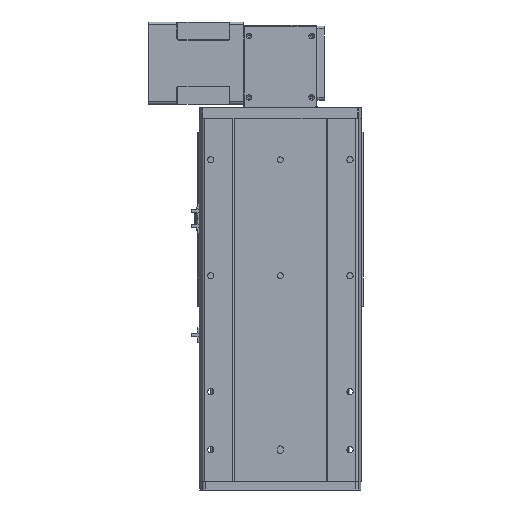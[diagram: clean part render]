
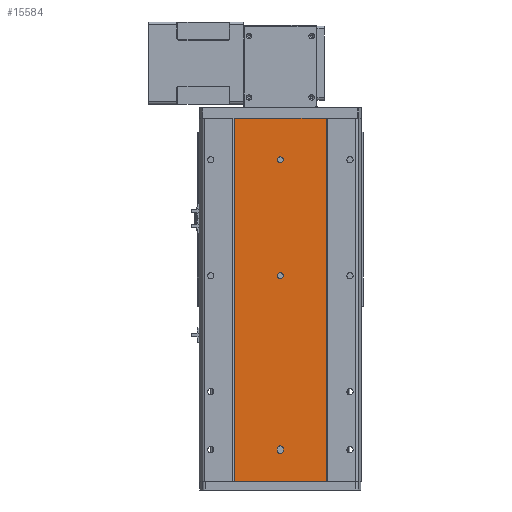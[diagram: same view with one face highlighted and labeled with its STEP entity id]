
A CAD part, front view. The second image highlights one B-rep face of the part: STEP entity #15584.
In plain terms, the highlighted planar face has unit normal (0, -1, 0).
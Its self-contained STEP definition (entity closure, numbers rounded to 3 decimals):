
#485 = CARTESIAN_POINT ( 'NONE',  ( 0., 1.5, -573. ) ) ;
#700 = CARTESIAN_POINT ( 'NONE',  ( 0., 1.5, -266.5 ) ) ;
#879 = FACE_OUTER_BOUND ( 'NONE', #30639, .T. ) ;
#1335 = DIRECTION ( 'NONE',  ( 0., 1., 0. ) ) ;
#1423 = DIRECTION ( 'NONE',  ( 0., 0., -1. ) ) ;
#2266 = DIRECTION ( 'NONE',  ( 1., 0., 0. ) ) ;
#4595 = AXIS2_PLACEMENT_3D ( 'NONE', #17086, #20539, #26842 ) ;
#5209 = EDGE_CURVE ( 'NONE', #33308, #13635, #17812, .T. ) ;
#5722 = CARTESIAN_POINT ( 'NONE',  ( 0., 1.5, -76.5 ) ) ;
#5755 = VERTEX_POINT ( 'NONE', #28177 ) ;
#5845 = CARTESIAN_POINT ( 'NONE',  ( -79., 1.5, 0. ) ) ;
#6512 = ORIENTED_EDGE ( 'NONE', *, *, #30100, .T. ) ;
#6748 = VECTOR ( 'NONE', #1423, 1000. ) ;
#6835 = CARTESIAN_POINT ( 'NONE',  ( -79., 1.5, -627. ) ) ;
#7912 = DIRECTION ( 'NONE',  ( 1., 0., 0. ) ) ;
#8146 = CARTESIAN_POINT ( 'NONE',  ( 0., 1.5, -573. ) ) ;
#8676 = AXIS2_PLACEMENT_3D ( 'NONE', #485, #1335, #15824 ) ;
#8684 = CARTESIAN_POINT ( 'NONE',  ( -5., 1.5, -627. ) ) ;
#8753 = CARTESIAN_POINT ( 'NONE',  ( -79., 1.5, 0. ) ) ;
#8786 = VERTEX_POINT ( 'NONE', #25258 ) ;
#8956 = CIRCLE ( 'NONE', #17875, 5. ) ;
#9595 = VECTOR ( 'NONE', #38729, 1000. ) ;
#9855 = EDGE_CURVE ( 'NONE', #38647, #19650, #14155, .T. ) ;
#10147 = DIRECTION ( 'NONE',  ( 1., 0., 0. ) ) ;
#11269 = DIRECTION ( 'NONE',  ( 0., 1., 0. ) ) ;
#11631 = CARTESIAN_POINT ( 'NONE',  ( 5., 1.5, -627. ) ) ;
#11682 = LINE ( 'NONE', #34620, #27562 ) ;
#11886 = CIRCLE ( 'NONE', #4595, 5. ) ;
#12054 = ORIENTED_EDGE ( 'NONE', *, *, #37401, .T. ) ;
#12189 = ORIENTED_EDGE ( 'NONE', *, *, #28045, .F. ) ;
#13635 = VERTEX_POINT ( 'NONE', #21191 ) ;
#14155 = CIRCLE ( 'NONE', #41268, 5. ) ;
#14166 = ORIENTED_EDGE ( 'NONE', *, *, #22579, .F. ) ;
#14586 = VECTOR ( 'NONE', #10147, 1000. ) ;
#14931 = AXIS2_PLACEMENT_3D ( 'NONE', #40707, #11269, #31004 ) ;
#15002 = DIRECTION ( 'NONE',  ( 1., 0., 0. ) ) ;
#15396 = VERTEX_POINT ( 'NONE', #5845 ) ;
#15450 = LINE ( 'NONE', #11631, #6748 ) ;
#15584 = ADVANCED_FACE ( 'NONE', ( #28098, #879, #36254, #37271 ), #26031, .T. ) ;
#15824 = DIRECTION ( 'NONE',  ( 1., 0., 0. ) ) ;
#17086 = CARTESIAN_POINT ( 'NONE',  ( 0., 1.5, -71.5 ) ) ;
#17137 = CARTESIAN_POINT ( 'NONE',  ( -5., 1.5, -573. ) ) ;
#17444 = ORIENTED_EDGE ( 'NONE', *, *, #41277, .T. ) ;
#17604 = CARTESIAN_POINT ( 'NONE',  ( 0., 1.5, -578. ) ) ;
#17812 = LINE ( 'NONE', #8684, #9595 ) ;
#17839 = CARTESIAN_POINT ( 'NONE',  ( 0., 1.5, -66.5 ) ) ;
#17875 = AXIS2_PLACEMENT_3D ( 'NONE', #36330, #26751, #32311 ) ;
#17899 = VERTEX_POINT ( 'NONE', #20148 ) ;
#18078 = EDGE_CURVE ( 'NONE', #21758, #25214, #24757, .T. ) ;
#18579 = EDGE_CURVE ( 'NONE', #17899, #20491, #15450, .T. ) ;
#19076 = VERTEX_POINT ( 'NONE', #17604 ) ;
#19275 = CARTESIAN_POINT ( 'NONE',  ( -79., 1.5, -627. ) ) ;
#19503 = LINE ( 'NONE', #19275, #38948 ) ;
#19573 = DIRECTION ( 'NONE',  ( 1., 0., 0. ) ) ;
#19650 = VERTEX_POINT ( 'NONE', #17839 ) ;
#20148 = CARTESIAN_POINT ( 'NONE',  ( 5., 1.5, -570. ) ) ;
#20491 = VERTEX_POINT ( 'NONE', #33491 ) ;
#20539 = DIRECTION ( 'NONE',  ( 0., 1., 0. ) ) ;
#20745 = CIRCLE ( 'NONE', #8676, 5. ) ;
#21191 = CARTESIAN_POINT ( 'NONE',  ( -5., 1.5, -570. ) ) ;
#21197 = DIRECTION ( 'NONE',  ( 0., 1., 0. ) ) ;
#21516 = DIRECTION ( 'NONE',  ( 0., 0., 1. ) ) ;
#21758 = VERTEX_POINT ( 'NONE', #700 ) ;
#22573 = ORIENTED_EDGE ( 'NONE', *, *, #9855, .T. ) ;
#22579 = EDGE_CURVE ( 'NONE', #15396, #5755, #24019, .T. ) ;
#22990 = ORIENTED_EDGE ( 'NONE', *, *, #37468, .T. ) ;
#24019 = LINE ( 'NONE', #8753, #35770 ) ;
#24223 = EDGE_CURVE ( 'NONE', #13635, #17899, #40960, .T. ) ;
#24364 = EDGE_LOOP ( 'NONE', ( #12054, #29077 ) ) ;
#24381 = CARTESIAN_POINT ( 'NONE',  ( 0., 1.5, -570. ) ) ;
#24726 = DIRECTION ( 'NONE',  ( 1., 0., 0. ) ) ;
#24757 = CIRCLE ( 'NONE', #14931, 5. ) ;
#24968 = AXIS2_PLACEMENT_3D ( 'NONE', #6835, #36300, #19573 ) ;
#25214 = VERTEX_POINT ( 'NONE', #36290 ) ;
#25258 = CARTESIAN_POINT ( 'NONE',  ( 79., 1.5, -627. ) ) ;
#26031 = PLANE ( 'NONE',  #24968 ) ;
#26751 = DIRECTION ( 'NONE',  ( 0., 1., 0. ) ) ;
#26842 = DIRECTION ( 'NONE',  ( 1., 0., 0. ) ) ;
#26899 = CARTESIAN_POINT ( 'NONE',  ( -79., 1.5, -627. ) ) ;
#27562 = VECTOR ( 'NONE', #21516, 1000. ) ;
#27750 = EDGE_CURVE ( 'NONE', #19076, #33308, #41454, .T. ) ;
#27818 = DIRECTION ( 'NONE',  ( 0., 1., 0. ) ) ;
#28045 = EDGE_CURVE ( 'NONE', #29454, #15396, #19503, .T. ) ;
#28098 = FACE_BOUND ( 'NONE', #33832, .T. ) ;
#28142 = DIRECTION ( 'NONE',  ( 0., 1., 0. ) ) ;
#28177 = CARTESIAN_POINT ( 'NONE',  ( 79., 1.5, 0. ) ) ;
#28283 = CARTESIAN_POINT ( 'NONE',  ( 0., 1.5, -71.5 ) ) ;
#29077 = ORIENTED_EDGE ( 'NONE', *, *, #18078, .T. ) ;
#29454 = VERTEX_POINT ( 'NONE', #32041 ) ;
#29576 = DIRECTION ( 'NONE',  ( 0., 0., 1. ) ) ;
#30029 = ORIENTED_EDGE ( 'NONE', *, *, #27750, .T. ) ;
#30100 = EDGE_CURVE ( 'NONE', #20491, #19076, #20745, .T. ) ;
#30639 = EDGE_LOOP ( 'NONE', ( #14166, #12189, #22990, #17444 ) ) ;
#31004 = DIRECTION ( 'NONE',  ( 1., 0., 0. ) ) ;
#31639 = EDGE_CURVE ( 'NONE', #19650, #38647, #11886, .T. ) ;
#32041 = CARTESIAN_POINT ( 'NONE',  ( -79., 1.5, -627. ) ) ;
#32180 = EDGE_LOOP ( 'NONE', ( #33454, #39822, #32205, #6512, #30029 ) ) ;
#32205 = ORIENTED_EDGE ( 'NONE', *, *, #18579, .T. ) ;
#32311 = DIRECTION ( 'NONE',  ( 1., 0., 0. ) ) ;
#33308 = VERTEX_POINT ( 'NONE', #17137 ) ;
#33454 = ORIENTED_EDGE ( 'NONE', *, *, #5209, .T. ) ;
#33491 = CARTESIAN_POINT ( 'NONE',  ( 5., 1.5, -573. ) ) ;
#33832 = EDGE_LOOP ( 'NONE', ( #22573, #38038 ) ) ;
#34620 = CARTESIAN_POINT ( 'NONE',  ( 79., 1.5, -627. ) ) ;
#35770 = VECTOR ( 'NONE', #2266, 1000. ) ;
#36254 = FACE_BOUND ( 'NONE', #24364, .T. ) ;
#36290 = CARTESIAN_POINT ( 'NONE',  ( 0., 1.5, -276.5 ) ) ;
#36300 = DIRECTION ( 'NONE',  ( 0., -1., 0. ) ) ;
#36330 = CARTESIAN_POINT ( 'NONE',  ( 0., 1.5, -271.5 ) ) ;
#37111 = LINE ( 'NONE', #26899, #14586 ) ;
#37271 = FACE_BOUND ( 'NONE', #32180, .T. ) ;
#37401 = EDGE_CURVE ( 'NONE', #25214, #21758, #8956, .T. ) ;
#37468 = EDGE_CURVE ( 'NONE', #29454, #8786, #37111, .T. ) ;
#37621 = AXIS2_PLACEMENT_3D ( 'NONE', #8146, #21197, #15002 ) ;
#38038 = ORIENTED_EDGE ( 'NONE', *, *, #31639, .T. ) ;
#38647 = VERTEX_POINT ( 'NONE', #5722 ) ;
#38729 = DIRECTION ( 'NONE',  ( 0., 0., 1. ) ) ;
#38948 = VECTOR ( 'NONE', #29576, 1000. ) ;
#39822 = ORIENTED_EDGE ( 'NONE', *, *, #24223, .T. ) ;
#40707 = CARTESIAN_POINT ( 'NONE',  ( 0., 1.5, -271.5 ) ) ;
#40743 = AXIS2_PLACEMENT_3D ( 'NONE', #24381, #27818, #7912 ) ;
#40960 = CIRCLE ( 'NONE', #40743, 5. ) ;
#41268 = AXIS2_PLACEMENT_3D ( 'NONE', #28283, #28142, #24726 ) ;
#41277 = EDGE_CURVE ( 'NONE', #8786, #5755, #11682, .T. ) ;
#41454 = CIRCLE ( 'NONE', #37621, 5. ) ;
